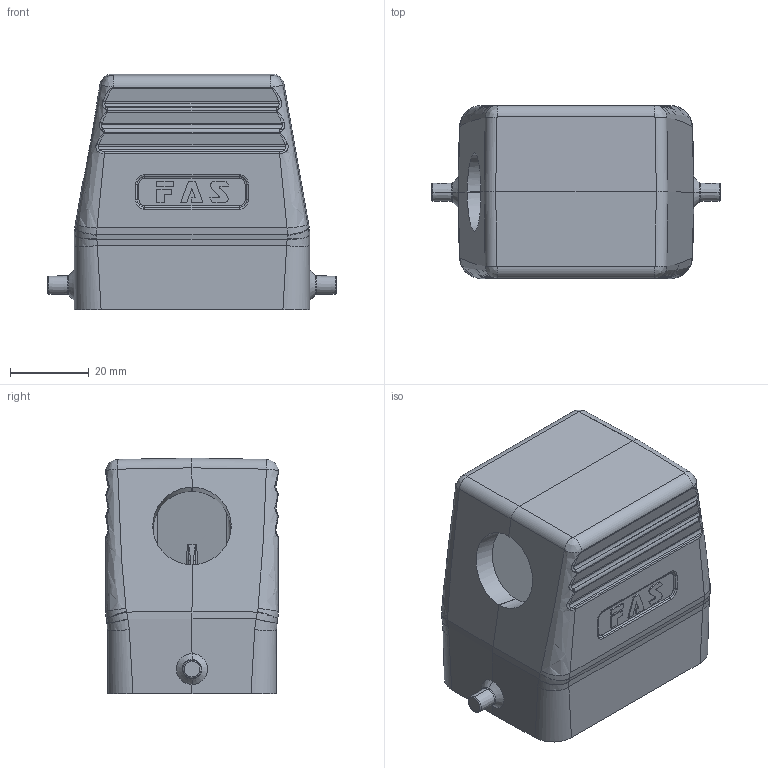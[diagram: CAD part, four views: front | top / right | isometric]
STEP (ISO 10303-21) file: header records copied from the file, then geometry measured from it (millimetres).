
FILE_DESCRIPTION (( 'STEP AP203' ), '1' );
FILE_NAME ('H6B-TG-M20.STEP', '2020-05-08T10:16:41', ( '' ), ( '' ), 'SwSTEP 2.0', 'SolidWorks 2016', '' );
FILE_SCHEMA (( 'CONFIG_CONTROL_DESIGN' ));
Length unit declared in the file: millimetre
Products named in the file (1): H6B-TG-M20
Bounding box: 73.4 x 44 x 60 mm (x, y, z)
Volume: 52176.2 mm3; surface area: 24429.4 mm2
Topology: 1 solids, 1 shells, 479 faces, 1170 edges, 710 vertices
Faces by surface type: bspline 156, cylinder 149, plane 142, cone 32
Entity records: 22629 total; most frequent: CARTESIAN_POINT 12782, ORIENTED_EDGE 2340, DIRECTION 1611, EDGE_CURVE 1170, VERTEX_POINT 710, AXIS2_PLACEMENT_3D 570, EDGE_LOOP 498, FACE_OUTER_BOUND 479
